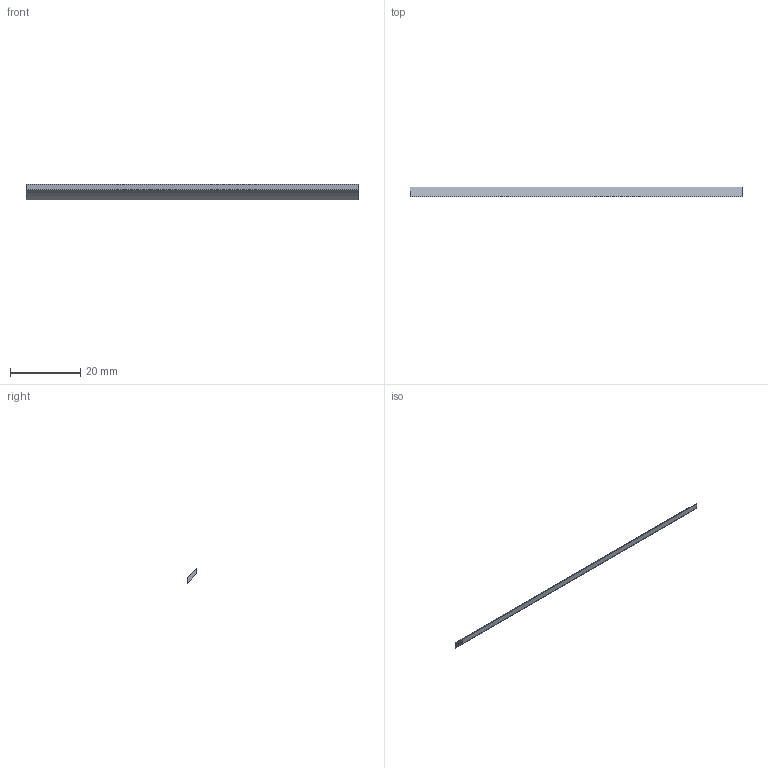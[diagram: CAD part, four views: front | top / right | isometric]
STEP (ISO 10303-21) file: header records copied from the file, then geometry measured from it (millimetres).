
FILE_DESCRIPTION(('SkyG Speed 90B - revision C6B-23 - 2026-10-17','HS-R-side-ledge-strip'),'2;1');
FILE_NAME('HS-R-side-ledge-strip_C6B-23','2026-10-17T13:26:41',('Author'),( 'Open CASCADE'),'Open CASCADE STEP processor 7.9','Open CASCADE 7.9' ,'Unknown');
FILE_SCHEMA(('AUTOMOTIVE_DESIGN { 1 0 10303 214 1 1 1 1 }'));
Length unit declared in the file: millimetre
Products named in the file (1): HS-R-side-ledge-strip C6B-23
Bounding box: 94.4 x 2.8 x 4.45 mm (x, y, z)
Volume: 421.4 mm3; surface area: 1072.5 mm2
Topology: 1 solids, 1 shells, 6 faces, 12 edges, 8 vertices
Faces by surface type: plane 5, cylinder 1
Entity records: 316 total; most frequent: CARTESIAN_POINT 59, DIRECTION 44, ORIENTED_EDGE 24, PCURVE 24, DEFINITIONAL_REPRESENTATION 24, LINE 24, VECTOR 24, EDGE_CURVE 12
